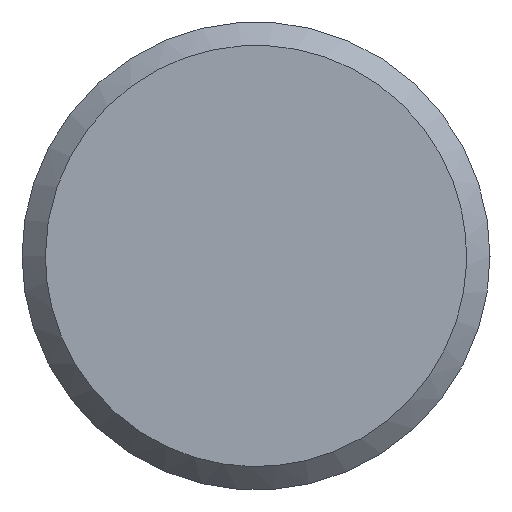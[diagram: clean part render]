
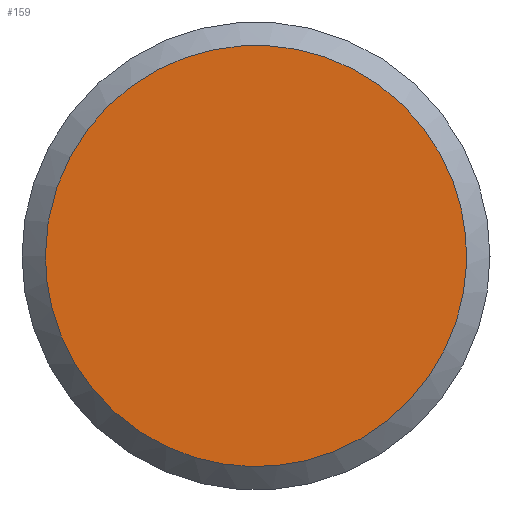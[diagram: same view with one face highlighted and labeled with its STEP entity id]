
A CAD part, left-side view. The second image highlights one B-rep face of the part: STEP entity #159.
In plain terms, the highlighted free-form (B-spline) face has degree [1, 1] with [2, 2] control points.
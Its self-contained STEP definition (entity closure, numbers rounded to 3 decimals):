
#110 = VERTEX_POINT('', #111);
#111 = CARTESIAN_POINT('', (-36., 2.7, 0.));
#116 = EDGE_CURVE('', #110, #110, #117, .T.);
#117 = (
   BOUNDED_CURVE ()
   B_SPLINE_CURVE (2, (#118, #119, #120, #121, #122, #123, #124, #125, #126), .UNSPECIFIED., .T., .U.)
   B_SPLINE_CURVE_WITH_KNOTS ((3, 2, 2, 2, 3), (0., 0.25, 0.5, 0.75, 1.), .UNSPECIFIED.)
   CURVE ()
   GEOMETRIC_REPRESENTATION_ITEM ()
   RATIONAL_B_SPLINE_CURVE ((1., 0.707, 1., 0.707, 1., 0.707, 1., 0.707, 1.))
   REPRESENTATION_ITEM ('')
);
#118 = CARTESIAN_POINT('', (-36., 2.7, 0.));
#119 = CARTESIAN_POINT('', (-36., 2.7, 2.7));
#120 = CARTESIAN_POINT('', (-36., 0., 2.7));
#121 = CARTESIAN_POINT('', (-36., -2.7, 2.7));
#122 = CARTESIAN_POINT('', (-36., -2.7, 0.));
#123 = CARTESIAN_POINT('', (-36., -2.7, -2.7));
#124 = CARTESIAN_POINT('', (-36., 0., -2.7));
#125 = CARTESIAN_POINT('', (-36., 2.7, -2.7));
#126 = CARTESIAN_POINT('', (-36., 2.7, 0.));
#159 = ADVANCED_FACE('', (#160), #163, .T.);
#160 = FACE_OUTER_BOUND('', #161, .T.);
#161 = EDGE_LOOP('', (#162));
#162 = ORIENTED_EDGE('', *, *, #116, .F.);
#163 = B_SPLINE_SURFACE_WITH_KNOTS('', 1, 1, ((#164, #165), (#166, #167)), .UNSPECIFIED., .F., .F., .U., (2, 2), (2, 2), (0.179, 0.821), (0.179, 0.821), .UNSPECIFIED.);
#164 = CARTESIAN_POINT('', (-36., -2.7, -2.7));
#165 = CARTESIAN_POINT('', (-36., 2.7, -2.7));
#166 = CARTESIAN_POINT('', (-36., -2.7, 2.7));
#167 = CARTESIAN_POINT('', (-36., 2.7, 2.7));
